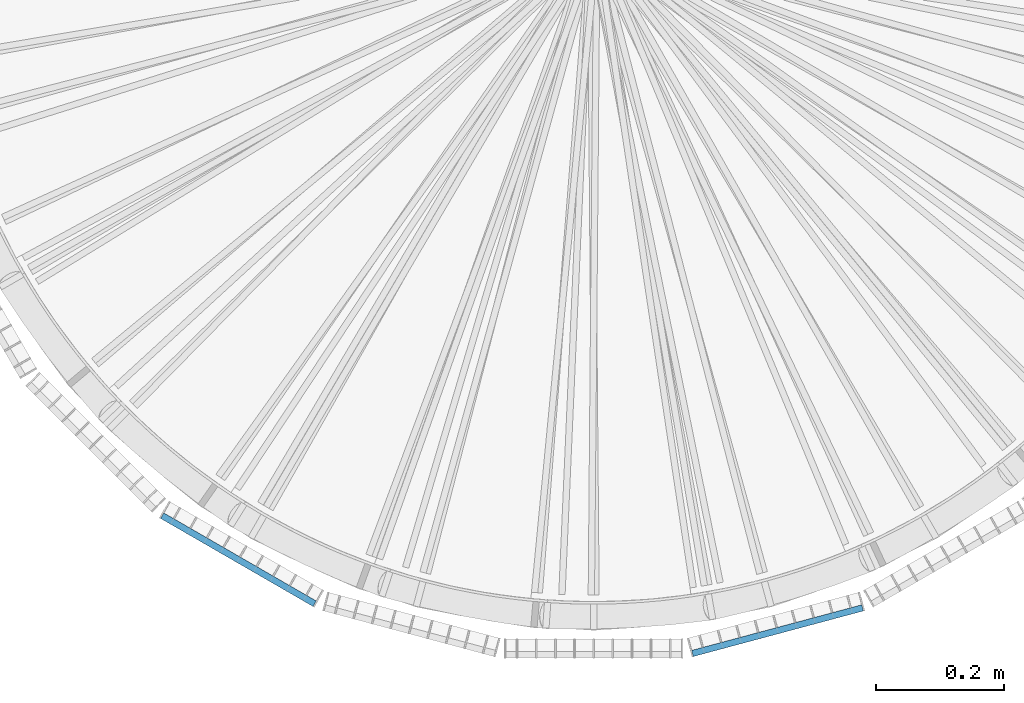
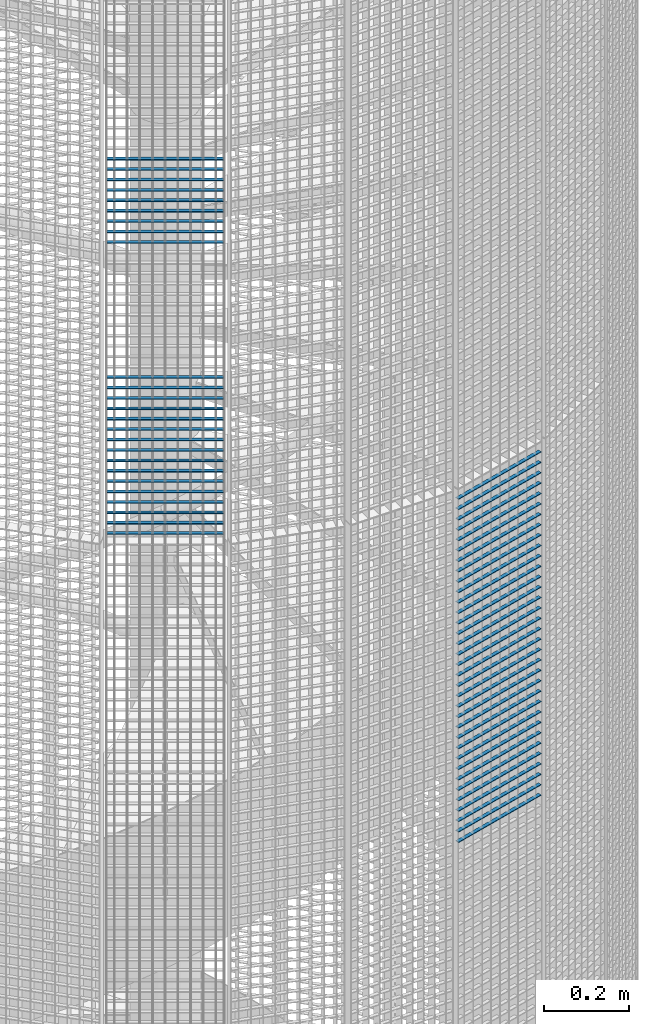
# One storey, part 159 of 1148: 59 beams, 2 elements without a shape of their own.
"""IFC2X3 building model written with IfcOpenShell, lengths in millimetres."""

from ifc_helpers import new_model, si_unit, frame, origin_with_axes, origin_2d_with_axis, place, context, subcontext, project, spatial, rectangle, extrude, material, type_object, element, aggregate, save


model = new_model("IFC2X3")

# Units and contexts
model_context = context("Model", 3, precision=1e-05, world=origin_with_axes())
body_context = subcontext(model_context, "Body", "Model", "MODEL_VIEW")
ifc_project = project(units=[si_unit("LENGTHUNIT", "METRE", prefix="MILLI"), si_unit("AREAUNIT", "SQUARE_METRE"), si_unit("VOLUMEUNIT", "CUBIC_METRE"), si_unit("MASSUNIT", "GRAM", prefix="KILO"), si_unit("TIMEUNIT", "SECOND"), si_unit("PLANEANGLEUNIT", "RADIAN"), si_unit("SOLIDANGLEUNIT", "STERADIAN"), si_unit("THERMODYNAMICTEMPERATUREUNIT", "DEGREE_CELSIUS"), si_unit("LUMINOUSINTENSITYUNIT", "LUMEN")], contexts=[model_context])

# Site, building, storey
site_placement = place(None, origin_with_axes())
site = spatial("IfcSite", under=ifc_project, at=site_placement, Name="Undefined", CompositionType="ELEMENT")
building_placement = place(site_placement, origin_with_axes())
building = spatial("IfcBuilding", under=site, at=building_placement, Name="Undefined", CompositionType="ELEMENT")
storey_placement = place(building_placement, origin_with_axes())
storey = spatial("IfcBuildingStorey", under=building, at=storey_placement, Name="Undefined", CompositionType="ELEMENT", Elevation=0.0)

# Assembly, beams
assembly_1_placement = place(storey_placement, origin_with_axes())
assembly_1 = element("IfcElementAssembly", 1, at=assembly_1_placement, inside=storey, Name="BORDURE", AssemblyPlace="NOTDEFINED", PredefinedType="NOTDEFINED")
ifc_material = material(Name="STEEL/S235JR")
beam_type = type_object("IfcBeamType", Name="PL2*10", PredefinedType="NOTDEFINED")
beam_1_placement = place(assembly_1_placement, frame((-676.248044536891, -895.303964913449, 6480.0), z_axis=(-0.49999999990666, -0.866025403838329, 0.0), x_axis=(0.866025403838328, -0.49999999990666, 0.0)))
beam_1 = element("IfcBeam", 2, at=beam_1_placement, type_object=beam_type, material=ifc_material, Name="ENTRETOISE", context=body_context, shape_type="SweptSolid", body=[
    extrude(rectangle(XDim=2.0, YDim=10.0, at=origin_2d_with_axis()), frame((275.999999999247, 9.09494701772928e-13, 1.53210777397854e-14), z_axis=(-1.0, 0.0, 0.0), x_axis=(0.0, -1.0, 0.0)), (0.0, 0.0, 1.0), 276.0),
])
beam_2_placement = place(assembly_1_placement, frame((-676.248044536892, -895.303964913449, 6870.0), z_axis=(-0.49999999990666, -0.866025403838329, 0.0), x_axis=(0.866025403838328, -0.49999999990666, 0.0)))
beam_2 = element("IfcBeam", 3, at=beam_2_placement, type_object=beam_type, material=ifc_material, Name="ENTRETOISE", context=body_context, shape_type="SweptSolid", body=[
    extrude(rectangle(XDim=2.0, YDim=10.0, at=origin_2d_with_axis()), frame((275.999999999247, 9.09494701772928e-13, 1.53210777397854e-14), z_axis=(-1.0, 0.0, 0.0), x_axis=(0.0, -1.0, 0.0)), (0.0, 0.0, 1.0), 276.0),
])
beam_3_placement = place(assembly_1_placement, frame((-676.248044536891, -895.30396491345, 6450.0), z_axis=(-0.49999999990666, -0.866025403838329, 0.0), x_axis=(0.866025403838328, -0.49999999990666, 0.0)))
beam_3 = element("IfcBeam", 4, at=beam_3_placement, type_object=beam_type, material=ifc_material, Name="ENTRETOISE", context=body_context, shape_type="SweptSolid", body=[
    extrude(rectangle(XDim=2.0, YDim=10.0, at=origin_2d_with_axis()), frame((275.999999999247, 9.09494701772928e-13, 1.53210777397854e-14), z_axis=(-1.0, 0.0, 0.0), x_axis=(0.0, -1.0, 0.0)), (0.0, 0.0, 1.0), 276.0),
])
beam_4_placement = place(assembly_1_placement, frame((-676.24804453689, -895.30396491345, 6420.0), z_axis=(-0.49999999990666, -0.866025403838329, 0.0), x_axis=(0.866025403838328, -0.49999999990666, 0.0)))
beam_4 = element("IfcBeam", 5, at=beam_4_placement, type_object=beam_type, material=ifc_material, Name="ENTRETOISE", context=body_context, shape_type="SweptSolid", body=[
    extrude(rectangle(XDim=2.0, YDim=10.0, at=origin_2d_with_axis()), frame((275.999999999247, 9.09494701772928e-13, 1.53210777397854e-14), z_axis=(-1.0, 0.0, 0.0), x_axis=(0.0, -1.0, 0.0)), (0.0, 0.0, 1.0), 276.0),
])
beam_5_placement = place(assembly_1_placement, frame((-676.248044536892, -895.303964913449, 6900.0), z_axis=(-0.49999999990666, -0.866025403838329, 0.0), x_axis=(0.866025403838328, -0.49999999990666, 0.0)))
beam_5 = element("IfcBeam", 6, at=beam_5_placement, type_object=beam_type, material=ifc_material, Name="ENTRETOISE", context=body_context, shape_type="SweptSolid", body=[
    extrude(rectangle(XDim=2.0, YDim=10.0, at=origin_2d_with_axis()), frame((275.999999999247, 9.09494701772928e-13, 1.53210777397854e-14), z_axis=(-1.0, 0.0, 0.0), x_axis=(0.0, -1.0, 0.0)), (0.0, 0.0, 1.0), 276.0),
])
beam_6_placement = place(assembly_1_placement, frame((-676.24804453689, -895.30396491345, 6390.0), z_axis=(-0.49999999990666, -0.866025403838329, 0.0), x_axis=(0.866025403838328, -0.49999999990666, 0.0)))
beam_6 = element("IfcBeam", 7, at=beam_6_placement, type_object=beam_type, material=ifc_material, Name="ENTRETOISE", context=body_context, shape_type="SweptSolid", body=[
    extrude(rectangle(XDim=2.0, YDim=10.0, at=origin_2d_with_axis()), frame((275.999999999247, 9.09494701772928e-13, 1.53210777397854e-14), z_axis=(-1.0, 0.0, 0.0), x_axis=(0.0, -1.0, 0.0)), (0.0, 0.0, 1.0), 276.0),
])
beam_7_placement = place(assembly_1_placement, frame((-676.248044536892, -895.303964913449, 6930.0), z_axis=(-0.49999999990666, -0.866025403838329, 0.0), x_axis=(0.866025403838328, -0.49999999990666, 0.0)))
beam_7 = element("IfcBeam", 8, at=beam_7_placement, type_object=beam_type, material=ifc_material, Name="ENTRETOISE", context=body_context, shape_type="SweptSolid", body=[
    extrude(rectangle(XDim=2.0, YDim=10.0, at=origin_2d_with_axis()), frame((275.999999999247, 9.09494701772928e-13, 1.53210777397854e-14), z_axis=(-1.0, 0.0, 0.0), x_axis=(0.0, -1.0, 0.0)), (0.0, 0.0, 1.0), 276.0),
])
beam_8_placement = place(assembly_1_placement, frame((-676.24804453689, -895.30396491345, 6360.0), z_axis=(-0.49999999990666, -0.866025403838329, 0.0), x_axis=(0.866025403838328, -0.49999999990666, 0.0)))
beam_8 = element("IfcBeam", 9, at=beam_8_placement, type_object=beam_type, material=ifc_material, Name="ENTRETOISE", context=body_context, shape_type="SweptSolid", body=[
    extrude(rectangle(XDim=2.0, YDim=10.0, at=origin_2d_with_axis()), frame((275.999999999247, 9.09494701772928e-13, 1.53210777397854e-14), z_axis=(-1.0, 0.0, 0.0), x_axis=(0.0, -1.0, 0.0)), (0.0, 0.0, 1.0), 276.0),
])
beam_9_placement = place(assembly_1_placement, frame((-676.24804453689, -895.30396491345, 6330.0), z_axis=(-0.49999999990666, -0.866025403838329, 0.0), x_axis=(0.866025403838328, -0.49999999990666, 0.0)))
beam_9 = element("IfcBeam", 10, at=beam_9_placement, type_object=beam_type, material=ifc_material, Name="ENTRETOISE", context=body_context, shape_type="SweptSolid", body=[
    extrude(rectangle(XDim=2.0, YDim=10.0, at=origin_2d_with_axis()), frame((275.999999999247, 9.09494701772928e-13, 1.53210777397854e-14), z_axis=(-1.0, 0.0, 0.0), x_axis=(0.0, -1.0, 0.0)), (0.0, 0.0, 1.0), 276.0),
])
beam_10_placement = place(assembly_1_placement, frame((-676.248044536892, -895.303964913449, 6960.0), z_axis=(-0.49999999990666, -0.866025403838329, 0.0), x_axis=(0.866025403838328, -0.49999999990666, 0.0)))
beam_10 = element("IfcBeam", 11, at=beam_10_placement, type_object=beam_type, material=ifc_material, Name="ENTRETOISE", context=body_context, shape_type="SweptSolid", body=[
    extrude(rectangle(XDim=2.0, YDim=10.0, at=origin_2d_with_axis()), frame((275.999999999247, 9.09494701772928e-13, 1.53210777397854e-14), z_axis=(-1.0, 0.0, 0.0), x_axis=(0.0, -1.0, 0.0)), (0.0, 0.0, 1.0), 276.0),
])
beam_11_placement = place(assembly_1_placement, frame((-676.24804453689, -895.30396491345, 6300.0), z_axis=(-0.49999999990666, -0.866025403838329, 0.0), x_axis=(0.866025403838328, -0.49999999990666, 0.0)))
beam_11 = element("IfcBeam", 12, at=beam_11_placement, type_object=beam_type, material=ifc_material, Name="ENTRETOISE", context=body_context, shape_type="SweptSolid", body=[
    extrude(rectangle(XDim=2.0, YDim=10.0, at=origin_2d_with_axis()), frame((275.999999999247, 9.09494701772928e-13, 1.53210777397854e-14), z_axis=(-1.0, 0.0, 0.0), x_axis=(0.0, -1.0, 0.0)), (0.0, 0.0, 1.0), 276.0),
])
beam_12_placement = place(assembly_1_placement, frame((-676.24804453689, -895.30396491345, 6270.0), z_axis=(-0.49999999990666, -0.866025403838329, 0.0), x_axis=(0.866025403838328, -0.49999999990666, 0.0)))
beam_12 = element("IfcBeam", 13, at=beam_12_placement, type_object=beam_type, material=ifc_material, Name="ENTRETOISE", context=body_context, shape_type="SweptSolid", body=[
    extrude(rectangle(XDim=2.0, YDim=10.0, at=origin_2d_with_axis()), frame((275.999999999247, 9.09494701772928e-13, 1.53210777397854e-14), z_axis=(-1.0, 0.0, 0.0), x_axis=(0.0, -1.0, 0.0)), (0.0, 0.0, 1.0), 276.0),
])
beam_13_placement = place(assembly_1_placement, frame((-676.248044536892, -895.303964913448, 6990.0), z_axis=(-0.49999999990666, -0.866025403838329, 0.0), x_axis=(0.866025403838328, -0.49999999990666, 0.0)))
beam_13 = element("IfcBeam", 14, at=beam_13_placement, type_object=beam_type, material=ifc_material, Name="ENTRETOISE", context=body_context, shape_type="SweptSolid", body=[
    extrude(rectangle(XDim=2.0, YDim=10.0, at=origin_2d_with_axis()), frame((275.999999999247, 9.09494701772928e-13, 1.53210777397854e-14), z_axis=(-1.0, 0.0, 0.0), x_axis=(0.0, -1.0, 0.0)), (0.0, 0.0, 1.0), 276.0),
])
beam_14_placement = place(assembly_1_placement, frame((-676.24804453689, -895.30396491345, 6240.0), z_axis=(-0.49999999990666, -0.866025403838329, 0.0), x_axis=(0.866025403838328, -0.49999999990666, 0.0)))
beam_14 = element("IfcBeam", 15, at=beam_14_placement, type_object=beam_type, material=ifc_material, Name="ENTRETOISE", context=body_context, shape_type="SweptSolid", body=[
    extrude(rectangle(XDim=2.0, YDim=10.0, at=origin_2d_with_axis()), frame((275.999999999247, 9.09494701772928e-13, 1.53210777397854e-14), z_axis=(-1.0, 0.0, 0.0), x_axis=(0.0, -1.0, 0.0)), (0.0, 0.0, 1.0), 276.0),
])
beam_15_placement = place(assembly_1_placement, frame((-676.248044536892, -895.303964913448, 7020.0), z_axis=(-0.49999999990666, -0.866025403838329, 0.0), x_axis=(0.866025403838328, -0.49999999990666, 0.0)))
beam_15 = element("IfcBeam", 16, at=beam_15_placement, type_object=beam_type, material=ifc_material, Name="ENTRETOISE", context=body_context, shape_type="SweptSolid", body=[
    extrude(rectangle(XDim=2.0, YDim=10.0, at=origin_2d_with_axis()), frame((275.999999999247, 9.09494701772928e-13, 1.53210777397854e-14), z_axis=(-1.0, 0.0, 0.0), x_axis=(0.0, -1.0, 0.0)), (0.0, 0.0, 1.0), 276.0),
])
beam_16_placement = place(assembly_1_placement, frame((-676.24804453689, -895.30396491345, 6210.0), z_axis=(-0.49999999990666, -0.866025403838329, 0.0), x_axis=(0.866025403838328, -0.49999999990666, 0.0)))
beam_16 = element("IfcBeam", 17, at=beam_16_placement, type_object=beam_type, material=ifc_material, Name="ENTRETOISE", context=body_context, shape_type="SweptSolid", body=[
    extrude(rectangle(XDim=2.0, YDim=10.0, at=origin_2d_with_axis()), frame((275.999999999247, 9.09494701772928e-13, 1.53210777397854e-14), z_axis=(-1.0, 0.0, 0.0), x_axis=(0.0, -1.0, 0.0)), (0.0, 0.0, 1.0), 276.0),
])
beam_17_placement = place(assembly_1_placement, frame((-676.24804453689, -895.30396491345, 6180.0), z_axis=(-0.49999999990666, -0.866025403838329, 0.0), x_axis=(0.866025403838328, -0.49999999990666, 0.0)))
beam_17 = element("IfcBeam", 18, at=beam_17_placement, type_object=beam_type, material=ifc_material, Name="ENTRETOISE", context=body_context, shape_type="SweptSolid", body=[
    extrude(rectangle(XDim=2.0, YDim=10.0, at=origin_2d_with_axis()), frame((275.999999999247, 9.09494701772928e-13, 1.53210777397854e-14), z_axis=(-1.0, 0.0, 0.0), x_axis=(0.0, -1.0, 0.0)), (0.0, 0.0, 1.0), 276.0),
])
beam_18_placement = place(assembly_1_placement, frame((-676.248044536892, -895.303964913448, 7050.0), z_axis=(-0.49999999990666, -0.866025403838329, 0.0), x_axis=(0.866025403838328, -0.49999999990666, 0.0)))
beam_18 = element("IfcBeam", 19, at=beam_18_placement, type_object=beam_type, material=ifc_material, Name="ENTRETOISE", context=body_context, shape_type="SweptSolid", body=[
    extrude(rectangle(XDim=2.0, YDim=10.0, at=origin_2d_with_axis()), frame((275.999999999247, 9.09494701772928e-13, 1.53210777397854e-14), z_axis=(-1.0, 0.0, 0.0), x_axis=(0.0, -1.0, 0.0)), (0.0, 0.0, 1.0), 276.0),
])
beam_19_placement = place(assembly_1_placement, frame((-676.24804453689, -895.30396491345, 6150.0), z_axis=(-0.49999999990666, -0.866025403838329, 0.0), x_axis=(0.866025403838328, -0.49999999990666, 0.0)))
beam_19 = element("IfcBeam", 20, at=beam_19_placement, type_object=beam_type, material=ifc_material, Name="ENTRETOISE", context=body_context, shape_type="SweptSolid", body=[
    extrude(rectangle(XDim=2.0, YDim=10.0, at=origin_2d_with_axis()), frame((275.999999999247, 9.09494701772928e-13, 1.53210777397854e-14), z_axis=(-1.0, 0.0, 0.0), x_axis=(0.0, -1.0, 0.0)), (0.0, 0.0, 1.0), 276.0),
])
beam_20_placement = place(assembly_1_placement, frame((-676.248044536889, -895.30396491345, 6120.0), z_axis=(-0.49999999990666, -0.866025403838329, 0.0), x_axis=(0.866025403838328, -0.49999999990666, 0.0)))
beam_20 = element("IfcBeam", 21, at=beam_20_placement, type_object=beam_type, material=ifc_material, Name="ENTRETOISE", context=body_context, shape_type="SweptSolid", body=[
    extrude(rectangle(XDim=2.0, YDim=10.0, at=origin_2d_with_axis()), frame((275.999999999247, 9.09494701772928e-13, 1.53210777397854e-14), z_axis=(-1.0, 0.0, 0.0), x_axis=(0.0, -1.0, 0.0)), (0.0, 0.0, 1.0), 276.0),
])
beam_21_placement = place(assembly_1_placement, frame((-676.248044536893, -895.303964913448, 7080.0), z_axis=(-0.49999999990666, -0.866025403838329, 0.0), x_axis=(0.866025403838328, -0.49999999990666, 0.0)))
beam_21 = element("IfcBeam", 22, at=beam_21_placement, type_object=beam_type, material=ifc_material, Name="ENTRETOISE", context=body_context, shape_type="SweptSolid", body=[
    extrude(rectangle(XDim=2.0, YDim=10.0, at=origin_2d_with_axis()), frame((275.999999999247, 9.09494701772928e-13, 1.53210777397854e-14), z_axis=(-1.0, 0.0, 0.0), x_axis=(0.0, -1.0, 0.0)), (0.0, 0.0, 1.0), 276.0),
])
beam_22_placement = place(assembly_1_placement, frame((-676.248044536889, -895.30396491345, 6090.0), z_axis=(-0.49999999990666, -0.866025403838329, 0.0), x_axis=(0.866025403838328, -0.49999999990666, 0.0)))
beam_22 = element("IfcBeam", 23, at=beam_22_placement, type_object=beam_type, material=ifc_material, Name="ENTRETOISE", context=body_context, shape_type="SweptSolid", body=[
    extrude(rectangle(XDim=2.0, YDim=10.0, at=origin_2d_with_axis()), frame((275.999999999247, 9.09494701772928e-13, 1.53210777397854e-14), z_axis=(-1.0, 0.0, 0.0), x_axis=(0.0, -1.0, 0.0)), (0.0, 0.0, 1.0), 276.0),
])
beam_23_placement = place(assembly_1_placement, frame((-676.248044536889, -895.30396491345, 6060.0), z_axis=(-0.49999999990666, -0.866025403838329, 0.0), x_axis=(0.866025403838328, -0.49999999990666, 0.0)))
beam_23 = element("IfcBeam", 24, at=beam_23_placement, type_object=beam_type, material=ifc_material, Name="ENTRETOISE", context=body_context, shape_type="SweptSolid", body=[
    extrude(rectangle(XDim=2.0, YDim=10.0, at=origin_2d_with_axis()), frame((275.999999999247, 9.09494701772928e-13, 1.53210777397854e-14), z_axis=(-1.0, 0.0, 0.0), x_axis=(0.0, -1.0, 0.0)), (0.0, 0.0, 1.0), 276.0),
])
beam_24_placement = place(assembly_1_placement, frame((-676.248044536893, -895.303964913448, 7110.0), z_axis=(-0.49999999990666, -0.866025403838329, 0.0), x_axis=(0.866025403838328, -0.49999999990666, 0.0)))
beam_24 = element("IfcBeam", 25, at=beam_24_placement, type_object=beam_type, material=ifc_material, Name="ENTRETOISE", context=body_context, shape_type="SweptSolid", body=[
    extrude(rectangle(XDim=2.0, YDim=10.0, at=origin_2d_with_axis()), frame((275.999999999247, 9.09494701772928e-13, 1.53210777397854e-14), z_axis=(-1.0, 0.0, 0.0), x_axis=(0.0, -1.0, 0.0)), (0.0, 0.0, 1.0), 276.0),
])
beam_25_placement = place(assembly_1_placement, frame((-676.248044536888, -895.30396491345, 6030.0), z_axis=(-0.49999999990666, -0.866025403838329, 0.0), x_axis=(0.866025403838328, -0.49999999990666, 0.0)))
beam_25 = element("IfcBeam", 26, at=beam_25_placement, type_object=beam_type, material=ifc_material, Name="ENTRETOISE", context=body_context, shape_type="SweptSolid", body=[
    extrude(rectangle(XDim=2.0, YDim=10.0, at=origin_2d_with_axis()), frame((275.999999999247, 9.09494701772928e-13, 1.53210777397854e-14), z_axis=(-1.0, 0.0, 0.0), x_axis=(0.0, -1.0, 0.0)), (0.0, 0.0, 1.0), 276.0),
])
aggregate(assembly_1, [beam_1, beam_2, beam_3, beam_4, beam_5, beam_6, beam_7, beam_8, beam_9, beam_10, beam_11, beam_12, beam_13, beam_14, beam_15, beam_16, beam_17, beam_18, beam_19, beam_20, beam_21, beam_22, beam_23, beam_24, beam_25])

assembly_2_placement = place(storey_placement, origin_with_axes())
assembly_2 = element("IfcElementAssembly", 27, at=assembly_2_placement, inside=storey, Name="BORDURE", AssemblyPlace="NOTDEFINED", PredefinedType="NOTDEFINED")
beam_26_placement = place(assembly_2_placement, frame((154.895926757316, -1111.25508286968, 5970.0), z_axis=(0.258819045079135, -0.965925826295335, 0.0), x_axis=(0.965925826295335, 0.258819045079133, 0.0)))
beam_26 = element("IfcBeam", 28, at=beam_26_placement, type_object=beam_type, material=ifc_material, Name="ENTRETOISE", context=body_context, shape_type="SweptSolid", body=[
    extrude(rectangle(XDim=2.0, YDim=10.0, at=origin_2d_with_axis()), frame((275.999999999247, 9.09494701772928e-13, 1.53210777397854e-14), z_axis=(-1.0, 0.0, 0.0), x_axis=(0.0, -1.0, 0.0)), (0.0, 0.0, 1.0), 276.0),
])
beam_27_placement = place(assembly_2_placement, frame((154.895926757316, -1111.25508286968, 5940.0), z_axis=(0.258819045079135, -0.965925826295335, 0.0), x_axis=(0.965925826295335, 0.258819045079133, 0.0)))
beam_27 = element("IfcBeam", 29, at=beam_27_placement, type_object=beam_type, material=ifc_material, Name="ENTRETOISE", context=body_context, shape_type="SweptSolid", body=[
    extrude(rectangle(XDim=2.0, YDim=10.0, at=origin_2d_with_axis()), frame((275.999999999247, 9.09494701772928e-13, 1.53210777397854e-14), z_axis=(-1.0, 0.0, 0.0), x_axis=(0.0, -1.0, 0.0)), (0.0, 0.0, 1.0), 276.0),
])
beam_28_placement = place(assembly_2_placement, frame((154.895926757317, -1111.25508286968, 5910.0), z_axis=(0.258819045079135, -0.965925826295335, 0.0), x_axis=(0.965925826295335, 0.258819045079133, 0.0)))
beam_28 = element("IfcBeam", 30, at=beam_28_placement, type_object=beam_type, material=ifc_material, Name="ENTRETOISE", context=body_context, shape_type="SweptSolid", body=[
    extrude(rectangle(XDim=2.0, YDim=10.0, at=origin_2d_with_axis()), frame((275.999999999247, 9.09494701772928e-13, 1.53210777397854e-14), z_axis=(-1.0, 0.0, 0.0), x_axis=(0.0, -1.0, 0.0)), (0.0, 0.0, 1.0), 276.0),
])
beam_29_placement = place(assembly_2_placement, frame((154.895926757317, -1111.25508286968, 5880.0), z_axis=(0.258819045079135, -0.965925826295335, 0.0), x_axis=(0.965925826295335, 0.258819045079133, 0.0)))
beam_29 = element("IfcBeam", 31, at=beam_29_placement, type_object=beam_type, material=ifc_material, Name="ENTRETOISE", context=body_context, shape_type="SweptSolid", body=[
    extrude(rectangle(XDim=2.0, YDim=10.0, at=origin_2d_with_axis()), frame((275.999999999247, 9.09494701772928e-13, 1.53210777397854e-14), z_axis=(-1.0, 0.0, 0.0), x_axis=(0.0, -1.0, 0.0)), (0.0, 0.0, 1.0), 276.0),
])
beam_30_placement = place(assembly_2_placement, frame((154.895926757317, -1111.25508286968, 5850.0), z_axis=(0.258819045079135, -0.965925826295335, 0.0), x_axis=(0.965925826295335, 0.258819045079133, 0.0)))
beam_30 = element("IfcBeam", 32, at=beam_30_placement, type_object=beam_type, material=ifc_material, Name="ENTRETOISE", context=body_context, shape_type="SweptSolid", body=[
    extrude(rectangle(XDim=2.0, YDim=10.0, at=origin_2d_with_axis()), frame((275.999999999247, 9.09494701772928e-13, 1.53210777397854e-14), z_axis=(-1.0, 0.0, 0.0), x_axis=(0.0, -1.0, 0.0)), (0.0, 0.0, 1.0), 276.0),
])
beam_31_placement = place(assembly_2_placement, frame((154.895926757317, -1111.25508286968, 5820.0), z_axis=(0.258819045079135, -0.965925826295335, 0.0), x_axis=(0.965925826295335, 0.258819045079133, 0.0)))
beam_31 = element("IfcBeam", 33, at=beam_31_placement, type_object=beam_type, material=ifc_material, Name="ENTRETOISE", context=body_context, shape_type="SweptSolid", body=[
    extrude(rectangle(XDim=2.0, YDim=10.0, at=origin_2d_with_axis()), frame((275.999999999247, 9.09494701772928e-13, 1.53210777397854e-14), z_axis=(-1.0, 0.0, 0.0), x_axis=(0.0, -1.0, 0.0)), (0.0, 0.0, 1.0), 276.0),
])
beam_32_placement = place(assembly_2_placement, frame((154.895926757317, -1111.25508286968, 5790.0), z_axis=(0.258819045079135, -0.965925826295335, 0.0), x_axis=(0.965925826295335, 0.258819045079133, 0.0)))
beam_32 = element("IfcBeam", 34, at=beam_32_placement, type_object=beam_type, material=ifc_material, Name="ENTRETOISE", context=body_context, shape_type="SweptSolid", body=[
    extrude(rectangle(XDim=2.0, YDim=10.0, at=origin_2d_with_axis()), frame((275.999999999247, 9.09494701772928e-13, 1.53210777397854e-14), z_axis=(-1.0, 0.0, 0.0), x_axis=(0.0, -1.0, 0.0)), (0.0, 0.0, 1.0), 276.0),
])
beam_33_placement = place(assembly_2_placement, frame((154.895926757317, -1111.25508286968, 5760.0), z_axis=(0.258819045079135, -0.965925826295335, 0.0), x_axis=(0.965925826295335, 0.258819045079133, 0.0)))
beam_33 = element("IfcBeam", 35, at=beam_33_placement, type_object=beam_type, material=ifc_material, Name="ENTRETOISE", context=body_context, shape_type="SweptSolid", body=[
    extrude(rectangle(XDim=2.0, YDim=10.0, at=origin_2d_with_axis()), frame((275.999999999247, 9.09494701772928e-13, 1.53210777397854e-14), z_axis=(-1.0, 0.0, 0.0), x_axis=(0.0, -1.0, 0.0)), (0.0, 0.0, 1.0), 276.0),
])
beam_34_placement = place(assembly_2_placement, frame((154.895926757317, -1111.25508286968, 5730.0), z_axis=(0.258819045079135, -0.965925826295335, 0.0), x_axis=(0.965925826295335, 0.258819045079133, 0.0)))
beam_34 = element("IfcBeam", 36, at=beam_34_placement, type_object=beam_type, material=ifc_material, Name="ENTRETOISE", context=body_context, shape_type="SweptSolid", body=[
    extrude(rectangle(XDim=2.0, YDim=10.0, at=origin_2d_with_axis()), frame((275.999999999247, 9.09494701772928e-13, 1.53210777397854e-14), z_axis=(-1.0, 0.0, 0.0), x_axis=(0.0, -1.0, 0.0)), (0.0, 0.0, 1.0), 276.0),
])
beam_35_placement = place(assembly_2_placement, frame((154.895926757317, -1111.25508286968, 5700.0), z_axis=(0.258819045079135, -0.965925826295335, 0.0), x_axis=(0.965925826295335, 0.258819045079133, 0.0)))
beam_35 = element("IfcBeam", 37, at=beam_35_placement, type_object=beam_type, material=ifc_material, Name="ENTRETOISE", context=body_context, shape_type="SweptSolid", body=[
    extrude(rectangle(XDim=2.0, YDim=10.0, at=origin_2d_with_axis()), frame((275.999999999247, 9.09494701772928e-13, 1.53210777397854e-14), z_axis=(-1.0, 0.0, 0.0), x_axis=(0.0, -1.0, 0.0)), (0.0, 0.0, 1.0), 276.0),
])
beam_36_placement = place(assembly_2_placement, frame((154.895926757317, -1111.25508286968, 5670.0), z_axis=(0.258819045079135, -0.965925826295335, 0.0), x_axis=(0.965925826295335, 0.258819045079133, 0.0)))
beam_36 = element("IfcBeam", 38, at=beam_36_placement, type_object=beam_type, material=ifc_material, Name="ENTRETOISE", context=body_context, shape_type="SweptSolid", body=[
    extrude(rectangle(XDim=2.0, YDim=10.0, at=origin_2d_with_axis()), frame((275.999999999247, 9.09494701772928e-13, 1.53210777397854e-14), z_axis=(-1.0, 0.0, 0.0), x_axis=(0.0, -1.0, 0.0)), (0.0, 0.0, 1.0), 276.0),
])
beam_37_placement = place(assembly_2_placement, frame((154.895926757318, -1111.25508286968, 5640.0), z_axis=(0.258819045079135, -0.965925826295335, 0.0), x_axis=(0.965925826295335, 0.258819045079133, 0.0)))
beam_37 = element("IfcBeam", 39, at=beam_37_placement, type_object=beam_type, material=ifc_material, Name="ENTRETOISE", context=body_context, shape_type="SweptSolid", body=[
    extrude(rectangle(XDim=2.0, YDim=10.0, at=origin_2d_with_axis()), frame((275.999999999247, 9.09494701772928e-13, 1.53210777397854e-14), z_axis=(-1.0, 0.0, 0.0), x_axis=(0.0, -1.0, 0.0)), (0.0, 0.0, 1.0), 276.0),
])
beam_38_placement = place(assembly_2_placement, frame((154.895926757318, -1111.25508286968, 5610.0), z_axis=(0.258819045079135, -0.965925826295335, 0.0), x_axis=(0.965925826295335, 0.258819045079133, 0.0)))
beam_38 = element("IfcBeam", 40, at=beam_38_placement, type_object=beam_type, material=ifc_material, Name="ENTRETOISE", context=body_context, shape_type="SweptSolid", body=[
    extrude(rectangle(XDim=2.0, YDim=10.0, at=origin_2d_with_axis()), frame((275.999999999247, 9.09494701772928e-13, 1.53210777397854e-14), z_axis=(-1.0, 0.0, 0.0), x_axis=(0.0, -1.0, 0.0)), (0.0, 0.0, 1.0), 276.0),
])
beam_39_placement = place(assembly_2_placement, frame((154.895926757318, -1111.25508286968, 5580.0), z_axis=(0.258819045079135, -0.965925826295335, 0.0), x_axis=(0.965925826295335, 0.258819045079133, 0.0)))
beam_39 = element("IfcBeam", 41, at=beam_39_placement, type_object=beam_type, material=ifc_material, Name="ENTRETOISE", context=body_context, shape_type="SweptSolid", body=[
    extrude(rectangle(XDim=2.0, YDim=10.0, at=origin_2d_with_axis()), frame((275.999999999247, 9.09494701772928e-13, 1.53210777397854e-14), z_axis=(-1.0, 0.0, 0.0), x_axis=(0.0, -1.0, 0.0)), (0.0, 0.0, 1.0), 276.0),
])
beam_40_placement = place(assembly_2_placement, frame((154.895926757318, -1111.25508286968, 5550.0), z_axis=(0.258819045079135, -0.965925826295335, 0.0), x_axis=(0.965925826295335, 0.258819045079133, 0.0)))
beam_40 = element("IfcBeam", 42, at=beam_40_placement, type_object=beam_type, material=ifc_material, Name="ENTRETOISE", context=body_context, shape_type="SweptSolid", body=[
    extrude(rectangle(XDim=2.0, YDim=10.0, at=origin_2d_with_axis()), frame((275.999999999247, 9.09494701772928e-13, 1.53210777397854e-14), z_axis=(-1.0, 0.0, 0.0), x_axis=(0.0, -1.0, 0.0)), (0.0, 0.0, 1.0), 276.0),
])
beam_41_placement = place(assembly_2_placement, frame((154.895926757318, -1111.25508286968, 5520.0), z_axis=(0.258819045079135, -0.965925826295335, 0.0), x_axis=(0.965925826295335, 0.258819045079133, 0.0)))
beam_41 = element("IfcBeam", 43, at=beam_41_placement, type_object=beam_type, material=ifc_material, Name="ENTRETOISE", context=body_context, shape_type="SweptSolid", body=[
    extrude(rectangle(XDim=2.0, YDim=10.0, at=origin_2d_with_axis()), frame((275.999999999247, 9.09494701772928e-13, 1.53210777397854e-14), z_axis=(-1.0, 0.0, 0.0), x_axis=(0.0, -1.0, 0.0)), (0.0, 0.0, 1.0), 276.0),
])
beam_42_placement = place(assembly_2_placement, frame((154.895926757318, -1111.25508286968, 5490.0), z_axis=(0.258819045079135, -0.965925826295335, 0.0), x_axis=(0.965925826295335, 0.258819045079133, 0.0)))
beam_42 = element("IfcBeam", 44, at=beam_42_placement, type_object=beam_type, material=ifc_material, Name="ENTRETOISE", context=body_context, shape_type="SweptSolid", body=[
    extrude(rectangle(XDim=2.0, YDim=10.0, at=origin_2d_with_axis()), frame((275.999999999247, 9.09494701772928e-13, 1.53210777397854e-14), z_axis=(-1.0, 0.0, 0.0), x_axis=(0.0, -1.0, 0.0)), (0.0, 0.0, 1.0), 276.0),
])
beam_43_placement = place(assembly_2_placement, frame((154.895926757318, -1111.25508286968, 5460.0), z_axis=(0.258819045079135, -0.965925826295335, 0.0), x_axis=(0.965925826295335, 0.258819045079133, 0.0)))
beam_43 = element("IfcBeam", 45, at=beam_43_placement, type_object=beam_type, material=ifc_material, Name="ENTRETOISE", context=body_context, shape_type="SweptSolid", body=[
    extrude(rectangle(XDim=2.0, YDim=10.0, at=origin_2d_with_axis()), frame((275.999999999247, 9.09494701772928e-13, 1.53210777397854e-14), z_axis=(-1.0, 0.0, 0.0), x_axis=(0.0, -1.0, 0.0)), (0.0, 0.0, 1.0), 276.0),
])
beam_44_placement = place(assembly_2_placement, frame((154.895926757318, -1111.25508286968, 5430.0), z_axis=(0.258819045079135, -0.965925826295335, 0.0), x_axis=(0.965925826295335, 0.258819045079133, 0.0)))
beam_44 = element("IfcBeam", 46, at=beam_44_placement, type_object=beam_type, material=ifc_material, Name="ENTRETOISE", context=body_context, shape_type="SweptSolid", body=[
    extrude(rectangle(XDim=2.0, YDim=10.0, at=origin_2d_with_axis()), frame((275.999999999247, 9.09494701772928e-13, 1.53210777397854e-14), z_axis=(-1.0, 0.0, 0.0), x_axis=(0.0, -1.0, 0.0)), (0.0, 0.0, 1.0), 276.0),
])
beam_45_placement = place(assembly_2_placement, frame((154.895926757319, -1111.25508286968, 5400.0), z_axis=(0.258819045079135, -0.965925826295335, 0.0), x_axis=(0.965925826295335, 0.258819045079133, 0.0)))
beam_45 = element("IfcBeam", 47, at=beam_45_placement, type_object=beam_type, material=ifc_material, Name="ENTRETOISE", context=body_context, shape_type="SweptSolid", body=[
    extrude(rectangle(XDim=2.0, YDim=10.0, at=origin_2d_with_axis()), frame((275.999999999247, 9.09494701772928e-13, 1.53210777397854e-14), z_axis=(-1.0, 0.0, 0.0), x_axis=(0.0, -1.0, 0.0)), (0.0, 0.0, 1.0), 276.0),
])
beam_46_placement = place(assembly_2_placement, frame((154.895926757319, -1111.25508286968, 5370.0), z_axis=(0.258819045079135, -0.965925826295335, 0.0), x_axis=(0.965925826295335, 0.258819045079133, 0.0)))
beam_46 = element("IfcBeam", 48, at=beam_46_placement, type_object=beam_type, material=ifc_material, Name="ENTRETOISE", context=body_context, shape_type="SweptSolid", body=[
    extrude(rectangle(XDim=2.0, YDim=10.0, at=origin_2d_with_axis()), frame((275.999999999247, 9.09494701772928e-13, 1.53210777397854e-14), z_axis=(-1.0, 0.0, 0.0), x_axis=(0.0, -1.0, 0.0)), (0.0, 0.0, 1.0), 276.0),
])
beam_47_placement = place(assembly_2_placement, frame((154.895926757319, -1111.25508286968, 5340.0), z_axis=(0.258819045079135, -0.965925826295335, 0.0), x_axis=(0.965925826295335, 0.258819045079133, 0.0)))
beam_47 = element("IfcBeam", 49, at=beam_47_placement, type_object=beam_type, material=ifc_material, Name="ENTRETOISE", context=body_context, shape_type="SweptSolid", body=[
    extrude(rectangle(XDim=2.0, YDim=10.0, at=origin_2d_with_axis()), frame((275.999999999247, 9.09494701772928e-13, 1.53210777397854e-14), z_axis=(-1.0, 0.0, 0.0), x_axis=(0.0, -1.0, 0.0)), (0.0, 0.0, 1.0), 276.0),
])
beam_48_placement = place(assembly_2_placement, frame((154.895926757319, -1111.25508286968, 5310.0), z_axis=(0.258819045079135, -0.965925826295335, 0.0), x_axis=(0.965925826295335, 0.258819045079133, 0.0)))
beam_48 = element("IfcBeam", 50, at=beam_48_placement, type_object=beam_type, material=ifc_material, Name="ENTRETOISE", context=body_context, shape_type="SweptSolid", body=[
    extrude(rectangle(XDim=2.0, YDim=10.0, at=origin_2d_with_axis()), frame((275.999999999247, 9.09494701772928e-13, 1.53210777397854e-14), z_axis=(-1.0, 0.0, 0.0), x_axis=(0.0, -1.0, 0.0)), (0.0, 0.0, 1.0), 276.0),
])
beam_49_placement = place(assembly_2_placement, frame((154.895926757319, -1111.25508286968, 5280.0), z_axis=(0.258819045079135, -0.965925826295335, 0.0), x_axis=(0.965925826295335, 0.258819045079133, 0.0)))
beam_49 = element("IfcBeam", 51, at=beam_49_placement, type_object=beam_type, material=ifc_material, Name="ENTRETOISE", context=body_context, shape_type="SweptSolid", body=[
    extrude(rectangle(XDim=2.0, YDim=10.0, at=origin_2d_with_axis()), frame((275.999999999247, 9.09494701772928e-13, 1.53210777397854e-14), z_axis=(-1.0, 0.0, 0.0), x_axis=(0.0, -1.0, 0.0)), (0.0, 0.0, 1.0), 276.0),
])
beam_50_placement = place(assembly_2_placement, frame((154.895926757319, -1111.25508286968, 5250.0), z_axis=(0.258819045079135, -0.965925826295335, 0.0), x_axis=(0.965925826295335, 0.258819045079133, 0.0)))
beam_50 = element("IfcBeam", 52, at=beam_50_placement, type_object=beam_type, material=ifc_material, Name="ENTRETOISE", context=body_context, shape_type="SweptSolid", body=[
    extrude(rectangle(XDim=2.0, YDim=10.0, at=origin_2d_with_axis()), frame((275.999999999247, 9.09494701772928e-13, 1.53210777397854e-14), z_axis=(-1.0, 0.0, 0.0), x_axis=(0.0, -1.0, 0.0)), (0.0, 0.0, 1.0), 276.0),
])
beam_51_placement = place(assembly_2_placement, frame((154.895926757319, -1111.25508286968, 5220.0), z_axis=(0.258819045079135, -0.965925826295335, 0.0), x_axis=(0.965925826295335, 0.258819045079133, 0.0)))
beam_51 = element("IfcBeam", 53, at=beam_51_placement, type_object=beam_type, material=ifc_material, Name="ENTRETOISE", context=body_context, shape_type="SweptSolid", body=[
    extrude(rectangle(XDim=2.0, YDim=10.0, at=origin_2d_with_axis()), frame((275.999999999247, 9.09494701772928e-13, 1.53210777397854e-14), z_axis=(-1.0, 0.0, 0.0), x_axis=(0.0, -1.0, 0.0)), (0.0, 0.0, 1.0), 276.0),
])
beam_52_placement = place(assembly_2_placement, frame((154.895926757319, -1111.25508286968, 5190.0), z_axis=(0.258819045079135, -0.965925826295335, 0.0), x_axis=(0.965925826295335, 0.258819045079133, 0.0)))
beam_52 = element("IfcBeam", 54, at=beam_52_placement, type_object=beam_type, material=ifc_material, Name="ENTRETOISE", context=body_context, shape_type="SweptSolid", body=[
    extrude(rectangle(XDim=2.0, YDim=10.0, at=origin_2d_with_axis()), frame((275.999999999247, 9.09494701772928e-13, 1.53210777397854e-14), z_axis=(-1.0, 0.0, 0.0), x_axis=(0.0, -1.0, 0.0)), (0.0, 0.0, 1.0), 276.0),
])
beam_53_placement = place(assembly_2_placement, frame((154.895926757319, -1111.25508286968, 5160.0), z_axis=(0.258819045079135, -0.965925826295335, 0.0), x_axis=(0.965925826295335, 0.258819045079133, 0.0)))
beam_53 = element("IfcBeam", 55, at=beam_53_placement, type_object=beam_type, material=ifc_material, Name="ENTRETOISE", context=body_context, shape_type="SweptSolid", body=[
    extrude(rectangle(XDim=2.0, YDim=10.0, at=origin_2d_with_axis()), frame((275.999999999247, 9.09494701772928e-13, 1.53210777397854e-14), z_axis=(-1.0, 0.0, 0.0), x_axis=(0.0, -1.0, 0.0)), (0.0, 0.0, 1.0), 276.0),
])
beam_54_placement = place(assembly_2_placement, frame((154.89592675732, -1111.25508286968, 5130.0), z_axis=(0.258819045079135, -0.965925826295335, 0.0), x_axis=(0.965925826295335, 0.258819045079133, 0.0)))
beam_54 = element("IfcBeam", 56, at=beam_54_placement, type_object=beam_type, material=ifc_material, Name="ENTRETOISE", context=body_context, shape_type="SweptSolid", body=[
    extrude(rectangle(XDim=2.0, YDim=10.0, at=origin_2d_with_axis()), frame((275.999999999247, 9.09494701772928e-13, 1.53210777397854e-14), z_axis=(-1.0, 0.0, 0.0), x_axis=(0.0, -1.0, 0.0)), (0.0, 0.0, 1.0), 276.0),
])
beam_55_placement = place(assembly_2_placement, frame((154.89592675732, -1111.25508286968, 5100.0), z_axis=(0.258819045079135, -0.965925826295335, 0.0), x_axis=(0.965925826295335, 0.258819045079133, 0.0)))
beam_55 = element("IfcBeam", 57, at=beam_55_placement, type_object=beam_type, material=ifc_material, Name="ENTRETOISE", context=body_context, shape_type="SweptSolid", body=[
    extrude(rectangle(XDim=2.0, YDim=10.0, at=origin_2d_with_axis()), frame((275.999999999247, 9.09494701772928e-13, 1.53210777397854e-14), z_axis=(-1.0, 0.0, 0.0), x_axis=(0.0, -1.0, 0.0)), (0.0, 0.0, 1.0), 276.0),
])
beam_56_placement = place(assembly_2_placement, frame((154.89592675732, -1111.25508286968, 5070.0), z_axis=(0.258819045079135, -0.965925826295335, 0.0), x_axis=(0.965925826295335, 0.258819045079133, 0.0)))
beam_56 = element("IfcBeam", 58, at=beam_56_placement, type_object=beam_type, material=ifc_material, Name="ENTRETOISE", context=body_context, shape_type="SweptSolid", body=[
    extrude(rectangle(XDim=2.0, YDim=10.0, at=origin_2d_with_axis()), frame((275.999999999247, 9.09494701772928e-13, 1.53210777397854e-14), z_axis=(-1.0, 0.0, 0.0), x_axis=(0.0, -1.0, 0.0)), (0.0, 0.0, 1.0), 276.0),
])
beam_57_placement = place(assembly_2_placement, frame((154.89592675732, -1111.25508286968, 5040.0), z_axis=(0.258819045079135, -0.965925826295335, 0.0), x_axis=(0.965925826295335, 0.258819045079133, 0.0)))
beam_57 = element("IfcBeam", 59, at=beam_57_placement, type_object=beam_type, material=ifc_material, Name="ENTRETOISE", context=body_context, shape_type="SweptSolid", body=[
    extrude(rectangle(XDim=2.0, YDim=10.0, at=origin_2d_with_axis()), frame((275.999999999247, 9.09494701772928e-13, 1.53210777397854e-14), z_axis=(-1.0, 0.0, 0.0), x_axis=(0.0, -1.0, 0.0)), (0.0, 0.0, 1.0), 276.0),
])
beam_58_placement = place(assembly_2_placement, frame((154.89592675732, -1111.25508286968, 5010.0), z_axis=(0.258819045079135, -0.965925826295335, 0.0), x_axis=(0.965925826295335, 0.258819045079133, 0.0)))
beam_58 = element("IfcBeam", 60, at=beam_58_placement, type_object=beam_type, material=ifc_material, Name="ENTRETOISE", context=body_context, shape_type="SweptSolid", body=[
    extrude(rectangle(XDim=2.0, YDim=10.0, at=origin_2d_with_axis()), frame((275.999999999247, 9.09494701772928e-13, 1.53210777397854e-14), z_axis=(-1.0, 0.0, 0.0), x_axis=(0.0, -1.0, 0.0)), (0.0, 0.0, 1.0), 276.0),
])
beam_59_placement = place(assembly_2_placement, frame((154.89592675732, -1111.25508286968, 4980.0), z_axis=(0.258819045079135, -0.965925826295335, 0.0), x_axis=(0.965925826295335, 0.258819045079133, 0.0)))
beam_59 = element("IfcBeam", 61, at=beam_59_placement, type_object=beam_type, material=ifc_material, Name="ENTRETOISE", context=body_context, shape_type="SweptSolid", body=[
    extrude(rectangle(XDim=2.0, YDim=10.0, at=origin_2d_with_axis()), frame((275.999999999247, 9.09494701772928e-13, 1.53210777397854e-14), z_axis=(-1.0, 0.0, 0.0), x_axis=(0.0, -1.0, 0.0)), (0.0, 0.0, 1.0), 276.0),
])
aggregate(assembly_2, [beam_26, beam_27, beam_28, beam_29, beam_30, beam_31, beam_32, beam_33, beam_34, beam_35, beam_36, beam_37, beam_38, beam_39, beam_40, beam_41, beam_42, beam_43, beam_44, beam_45, beam_46, beam_47, beam_48, beam_49, beam_50, beam_51, beam_52, beam_53, beam_54, beam_55, beam_56, beam_57, beam_58, beam_59])

save(model, "model.ifc")
